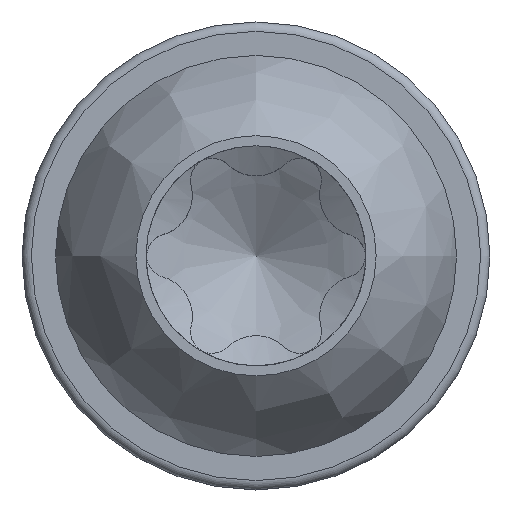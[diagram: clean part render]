
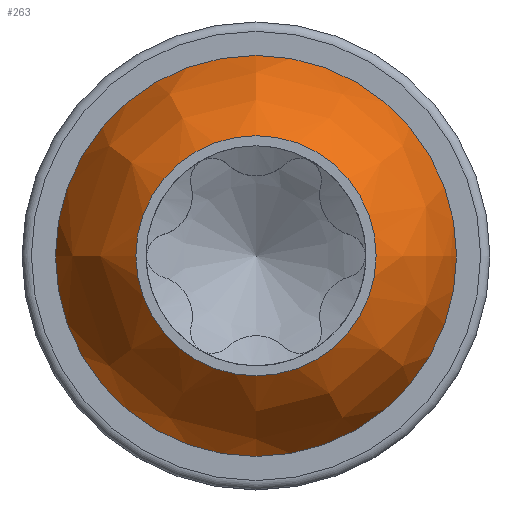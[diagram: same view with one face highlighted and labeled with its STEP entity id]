
A CAD part, top view. The second image highlights one B-rep face of the part: STEP entity #263.
In plain terms, the highlighted free-form (B-spline) face has degree [3, 3] with [4, 7] control points.
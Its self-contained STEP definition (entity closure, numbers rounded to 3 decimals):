
#215=(
BOUNDED_SURFACE()
B_SPLINE_SURFACE(3,3,((#3576,#3577,#3578,#3579,#3580,#3581,#3582),(#3583,
#3584,#3585,#3586,#3587,#3588,#3589),(#3590,#3591,#3592,#3593,#3594,#3595,
#3596),(#3597,#3598,#3599,#3600,#3601,#3602,#3603)),.UNSPECIFIED.,.F.,.T.,
 .F.)
B_SPLINE_SURFACE_WITH_KNOTS((4,4),(1,3,3,3,1),(0.,1.),(-0.5,0.,0.5,1.,1.5),
 .UNSPECIFIED.)
GEOMETRIC_REPRESENTATION_ITEM()
RATIONAL_B_SPLINE_SURFACE(((1.,0.333,0.333,1.,0.333,
0.333,1.),(0.959,0.32,0.32,
0.959,0.32,0.32,0.959),
(0.959,0.32,0.32,0.959,
0.32,0.32,0.959),(1.,0.333,
0.333,1.,0.333,0.333,1.)))
REPRESENTATION_ITEM('')
SURFACE()
);
#234=FACE_BOUND('',#437,.T.);
#235=FACE_BOUND('',#438,.T.);
#263=ADVANCED_FACE('',(#234,#235),#215,.T.);
#437=EDGE_LOOP('',(#596));
#438=EDGE_LOOP('',(#597));
#529=CIRCLE('',#1327,2.571);
#530=CIRCLE('',#1329,1.54);
#596=ORIENTED_EDGE('',*,*,#1075,.F.);
#597=ORIENTED_EDGE('',*,*,#1074,.T.);
#954=VERTEX_POINT('',#3572);
#955=VERTEX_POINT('',#3575);
#1074=EDGE_CURVE('',#954,#954,#529,.T.);
#1075=EDGE_CURVE('',#955,#955,#530,.T.);
#1327=AXIS2_PLACEMENT_3D('',#3571,#1391,#1392);
#1329=AXIS2_PLACEMENT_3D('',#3574,#1395,#1396);
#1391=DIRECTION('',(0.,0.,1.));
#1392=DIRECTION('',(1.,0.,0.));
#1395=DIRECTION('',(0.,0.,1.));
#1396=DIRECTION('',(1.,0.,0.));
#3571=CARTESIAN_POINT('',(0.,0.,0.6));
#3572=CARTESIAN_POINT('',(2.571,0.,0.6));
#3574=CARTESIAN_POINT('',(0.,0.,2.1));
#3575=CARTESIAN_POINT('',(1.54,0.,2.1));
#3576=CARTESIAN_POINT('',(1.54,0.,2.1));
#3577=CARTESIAN_POINT('',(1.54,3.08,2.1));
#3578=CARTESIAN_POINT('',(-1.54,3.08,2.1));
#3579=CARTESIAN_POINT('',(-1.54,0.,2.1));
#3580=CARTESIAN_POINT('',(-1.54,-3.08,2.1));
#3581=CARTESIAN_POINT('',(1.54,-3.08,2.1));
#3582=CARTESIAN_POINT('',(1.54,0.,2.1));
#3583=CARTESIAN_POINT('',(2.057,0.,1.735));
#3584=CARTESIAN_POINT('',(2.057,4.114,1.735));
#3585=CARTESIAN_POINT('',(-2.057,4.114,1.735));
#3586=CARTESIAN_POINT('',(-2.057,0.,1.735));
#3587=CARTESIAN_POINT('',(-2.057,-4.114,1.735));
#3588=CARTESIAN_POINT('',(2.057,-4.114,1.735));
#3589=CARTESIAN_POINT('',(2.057,0.,1.735));
#3590=CARTESIAN_POINT('',(2.416,0.,1.214));
#3591=CARTESIAN_POINT('',(2.416,4.832,1.214));
#3592=CARTESIAN_POINT('',(-2.416,4.832,1.214));
#3593=CARTESIAN_POINT('',(-2.416,0.,1.214));
#3594=CARTESIAN_POINT('',(-2.416,-4.832,1.214));
#3595=CARTESIAN_POINT('',(2.416,-4.832,1.214));
#3596=CARTESIAN_POINT('',(2.416,0.,1.214));
#3597=CARTESIAN_POINT('',(2.571,0.,0.6));
#3598=CARTESIAN_POINT('',(2.571,5.143,0.6));
#3599=CARTESIAN_POINT('',(-2.571,5.143,0.6));
#3600=CARTESIAN_POINT('',(-2.571,0.,0.6));
#3601=CARTESIAN_POINT('',(-2.571,-5.143,0.6));
#3602=CARTESIAN_POINT('',(2.571,-5.143,0.6));
#3603=CARTESIAN_POINT('',(2.571,0.,0.6));
